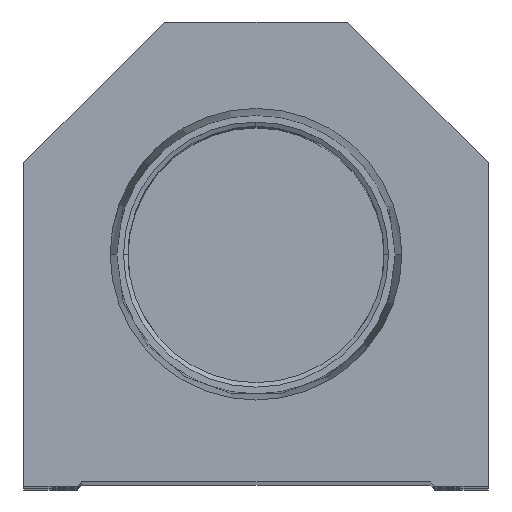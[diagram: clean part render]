
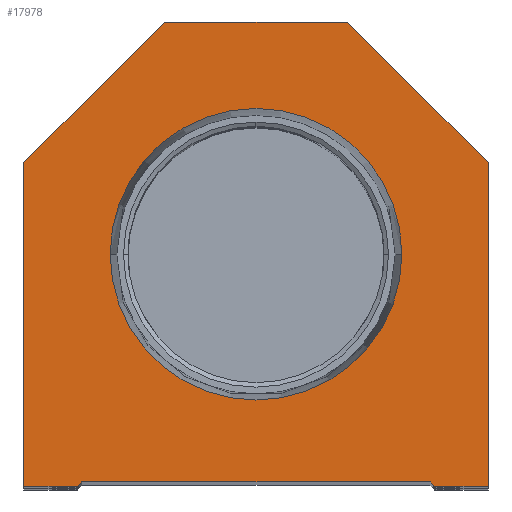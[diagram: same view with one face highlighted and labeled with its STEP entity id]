
A CAD part, top view. The second image highlights one B-rep face of the part: STEP entity #17978.
In plain terms, the highlighted planar face has unit normal (0, 0, 1).
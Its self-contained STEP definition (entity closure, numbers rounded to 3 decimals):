
#46 = EDGE_CURVE ( 'NONE', #13808, #1343, #1074, .T. ) ;
#67 = CARTESIAN_POINT ( 'NONE',  ( 25.4, 35.4, 0. ) ) ;
#189 = DIRECTION ( 'NONE',  ( 1., 0., 0. ) ) ;
#412 = VECTOR ( 'NONE', #8349, 1000. ) ;
#1074 = CIRCLE ( 'NONE', #10936, 15.947 ) ;
#1151 = DIRECTION ( 'NONE',  ( 1., 0., 0. ) ) ;
#1343 = VERTEX_POINT ( 'NONE', #12115 ) ;
#1536 = CARTESIAN_POINT ( 'NONE',  ( -19.05, 0.5, 0. ) ) ;
#1889 = EDGE_CURVE ( 'NONE', #16010, #10679, #19714, .T. ) ;
#1930 = DIRECTION ( 'NONE',  ( 1., 0., 0. ) ) ;
#2146 = LINE ( 'NONE', #8666, #17386 ) ;
#2629 = VECTOR ( 'NONE', #17559, 1000. ) ;
#2714 = VERTEX_POINT ( 'NONE', #15170 ) ;
#2973 = VERTEX_POINT ( 'NONE', #67 ) ;
#3074 = LINE ( 'NONE', #6482, #8356 ) ;
#3549 = CARTESIAN_POINT ( 'NONE',  ( -19.55, 0., 0. ) ) ;
#3789 = CIRCLE ( 'NONE', #21029, 15.947 ) ;
#3794 = ORIENTED_EDGE ( 'NONE', *, *, #8014, .T. ) ;
#4139 = LINE ( 'NONE', #15784, #5433 ) ;
#4503 = DIRECTION ( 'NONE',  ( 0., 1., 0. ) ) ;
#4729 = VECTOR ( 'NONE', #9572, 1000. ) ;
#4976 = CARTESIAN_POINT ( 'NONE',  ( 19.05, 0.5, 0. ) ) ;
#5433 = VECTOR ( 'NONE', #16022, 1000. ) ;
#5574 = CARTESIAN_POINT ( 'NONE',  ( 0., 25.4, 0. ) ) ;
#5630 = ORIENTED_EDGE ( 'NONE', *, *, #46, .F. ) ;
#5923 = EDGE_CURVE ( 'NONE', #12974, #14027, #4139, .T. ) ;
#6482 = CARTESIAN_POINT ( 'NONE',  ( 25.4, 0., 0. ) ) ;
#6837 = VERTEX_POINT ( 'NONE', #7863 ) ;
#7358 = DIRECTION ( 'NONE',  ( -0.707, 0.707, 0. ) ) ;
#7430 = LINE ( 'NONE', #17344, #16317 ) ;
#7450 = CARTESIAN_POINT ( 'NONE',  ( -10., 50.8, 0. ) ) ;
#7568 = EDGE_CURVE ( 'NONE', #21287, #16010, #9668, .T. ) ;
#7619 = ORIENTED_EDGE ( 'NONE', *, *, #20777, .T. ) ;
#7655 = CARTESIAN_POINT ( 'NONE',  ( 0., 25.4, 0. ) ) ;
#7709 = VECTOR ( 'NONE', #7358, 1000. ) ;
#7863 = CARTESIAN_POINT ( 'NONE',  ( -25.4, 0., 0. ) ) ;
#8014 = EDGE_CURVE ( 'NONE', #2714, #2973, #3074, .T. ) ;
#8344 = EDGE_CURVE ( 'NONE', #1343, #13808, #3789, .T. ) ;
#8349 = DIRECTION ( 'NONE',  ( 1., 0., 0. ) ) ;
#8356 = VECTOR ( 'NONE', #4503, 1000. ) ;
#8666 = CARTESIAN_POINT ( 'NONE',  ( -25.4, 35.4, 0. ) ) ;
#9471 = CARTESIAN_POINT ( 'NONE',  ( 15.947, 25.4, 0. ) ) ;
#9572 = DIRECTION ( 'NONE',  ( 0.707, -0.707, 0. ) ) ;
#9668 = LINE ( 'NONE', #17918, #13942 ) ;
#9795 = CARTESIAN_POINT ( 'NONE',  ( 9.775, 9.775, 0. ) ) ;
#9798 = FACE_BOUND ( 'NONE', #19219, .T. ) ;
#10118 = CARTESIAN_POINT ( 'NONE',  ( 19.05, 0., 0. ) ) ;
#10679 = VERTEX_POINT ( 'NONE', #21826 ) ;
#10936 = AXIS2_PLACEMENT_3D ( 'NONE', #7655, #16226, #1151 ) ;
#11460 = PLANE ( 'NONE',  #15457 ) ;
#12115 = CARTESIAN_POINT ( 'NONE',  ( -15.947, 25.4, 0. ) ) ;
#12195 = EDGE_CURVE ( 'NONE', #6837, #19623, #15242, .T. ) ;
#12893 = ORIENTED_EDGE ( 'NONE', *, *, #15647, .T. ) ;
#12974 = VERTEX_POINT ( 'NONE', #15495 ) ;
#13309 = LINE ( 'NONE', #10118, #412 ) ;
#13808 = VERTEX_POINT ( 'NONE', #9471 ) ;
#13942 = VECTOR ( 'NONE', #16380, 1000. ) ;
#14027 = VERTEX_POINT ( 'NONE', #7450 ) ;
#14156 = DIRECTION ( 'NONE',  ( 0., -1., 0. ) ) ;
#14176 = VECTOR ( 'NONE', #1930, 1000. ) ;
#14312 = CARTESIAN_POINT ( 'NONE',  ( -25.4, 35.4, 0. ) ) ;
#14473 = LINE ( 'NONE', #21002, #2629 ) ;
#14735 = FACE_OUTER_BOUND ( 'NONE', #21382, .T. ) ;
#15170 = CARTESIAN_POINT ( 'NONE',  ( 25.4, 0., 0. ) ) ;
#15242 = LINE ( 'NONE', #18885, #14176 ) ;
#15355 = DIRECTION ( 'NONE',  ( -0.707, -0.707, 0. ) ) ;
#15449 = ORIENTED_EDGE ( 'NONE', *, *, #7568, .T. ) ;
#15457 = AXIS2_PLACEMENT_3D ( 'NONE', #19715, #18164, #21594 ) ;
#15495 = CARTESIAN_POINT ( 'NONE',  ( 10., 50.8, 0. ) ) ;
#15576 = EDGE_CURVE ( 'NONE', #14027, #21383, #2146, .T. ) ;
#15647 = EDGE_CURVE ( 'NONE', #21383, #6837, #7430, .T. ) ;
#15697 = EDGE_CURVE ( 'NONE', #19623, #21287, #14473, .T. ) ;
#15784 = CARTESIAN_POINT ( 'NONE',  ( 10., 50.8, 0. ) ) ;
#16010 = VERTEX_POINT ( 'NONE', #4976 ) ;
#16022 = DIRECTION ( 'NONE',  ( -1., 0., 0. ) ) ;
#16049 = CARTESIAN_POINT ( 'NONE',  ( 25.4, 35.4, 0. ) ) ;
#16226 = DIRECTION ( 'NONE',  ( 0., 0., 1. ) ) ;
#16317 = VECTOR ( 'NONE', #14156, 1000. ) ;
#16380 = DIRECTION ( 'NONE',  ( 1., 0., 0. ) ) ;
#16966 = ORIENTED_EDGE ( 'NONE', *, *, #15576, .T. ) ;
#17178 = ORIENTED_EDGE ( 'NONE', *, *, #17305, .T. ) ;
#17305 = EDGE_CURVE ( 'NONE', #2973, #12974, #21146, .T. ) ;
#17344 = CARTESIAN_POINT ( 'NONE',  ( -25.4, 0., 0. ) ) ;
#17386 = VECTOR ( 'NONE', #15355, 1000. ) ;
#17559 = DIRECTION ( 'NONE',  ( 0.707, 0.707, 0. ) ) ;
#17771 = ORIENTED_EDGE ( 'NONE', *, *, #1889, .T. ) ;
#17918 = CARTESIAN_POINT ( 'NONE',  ( -19.05, 0.5, 0. ) ) ;
#17978 = ADVANCED_FACE ( 'NONE', ( #9798, #14735 ), #11460, .T. ) ;
#18164 = DIRECTION ( 'NONE',  ( 0., 0., 1. ) ) ;
#18885 = CARTESIAN_POINT ( 'NONE',  ( -19.05, 0., 0. ) ) ;
#19219 = EDGE_LOOP ( 'NONE', ( #5630, #20617 ) ) ;
#19623 = VERTEX_POINT ( 'NONE', #3549 ) ;
#19714 = LINE ( 'NONE', #9795, #4729 ) ;
#19715 = CARTESIAN_POINT ( 'NONE',  ( 0., 0., 0. ) ) ;
#19716 = ORIENTED_EDGE ( 'NONE', *, *, #15697, .T. ) ;
#19812 = ORIENTED_EDGE ( 'NONE', *, *, #5923, .T. ) ;
#19950 = ORIENTED_EDGE ( 'NONE', *, *, #12195, .T. ) ;
#20575 = DIRECTION ( 'NONE',  ( 0., 0., 1. ) ) ;
#20617 = ORIENTED_EDGE ( 'NONE', *, *, #8344, .F. ) ;
#20777 = EDGE_CURVE ( 'NONE', #10679, #2714, #13309, .T. ) ;
#21002 = CARTESIAN_POINT ( 'NONE',  ( -9.775, 9.775, 0. ) ) ;
#21029 = AXIS2_PLACEMENT_3D ( 'NONE', #5574, #20575, #189 ) ;
#21146 = LINE ( 'NONE', #16049, #7709 ) ;
#21287 = VERTEX_POINT ( 'NONE', #1536 ) ;
#21382 = EDGE_LOOP ( 'NONE', ( #19950, #19716, #15449, #17771, #7619, #3794, #17178, #19812, #16966, #12893 ) ) ;
#21383 = VERTEX_POINT ( 'NONE', #14312 ) ;
#21594 = DIRECTION ( 'NONE',  ( 1., 0., 0. ) ) ;
#21826 = CARTESIAN_POINT ( 'NONE',  ( 19.55, 0., 0. ) ) ;
